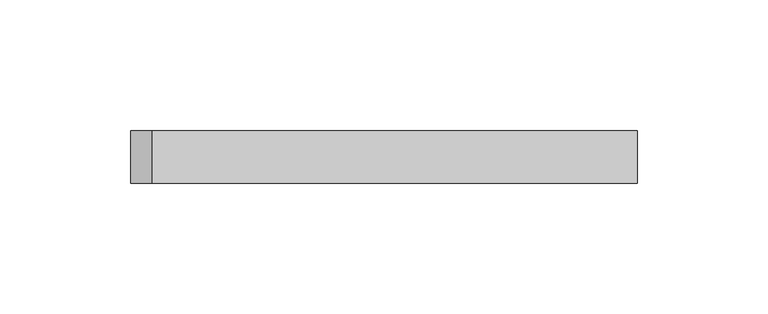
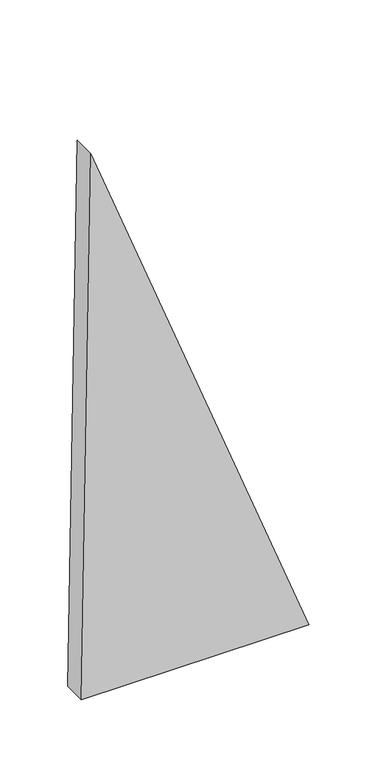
"""IFC4 building model written with IfcOpenShell, lengths in millimetres: plate geometry, 空系统嵌板 : 空."""

from ifc_helpers import new_model, si_unit, frame, origin, place, context, project, spatial, polyline, outline, extrude, source, transform, mapped, element, save


def plate_c055fcc8(model_context):
    return source(origin(), model_context, "Body", "SweptSolid", [
        extrude(outline(polyline([(0.4316413, -96.864761), (0.0, 96.864761), (489.3067732, -88.8484409), (0.4316413, -96.864761)])), frame((0.0, -10.0, 0.0), z_axis=(0.0, 1.0, 0.0), x_axis=(0.0, 0.0, 1.0)), (0.0, 0.0, 1.0), 20.0),
    ])


if __name__ == "__main__":
    model = new_model("IFC4")
    model_context = context("Model", 3, world=origin())
    ifc_project = project(units=[si_unit("LENGTHUNIT", "METRE", prefix="MILLI")], contexts=[model_context])
    site = spatial("IfcSite", under=ifc_project)
    building = spatial("IfcBuilding", under=site)
    placement = place(None, origin())
    plate_shape = plate_c055fcc8(model_context)
    element("IfcPlate", 1, ObjectType="空系统嵌板 : 空", at=placement, inside=building, context=model_context, shape_type="MappedRepresentation", body=[
        mapped(plate_shape, transform((0.0, 0.0, 0.0), x_axis=(1.0, 0.0, 0.0), y_axis=(0.0, 1.0, 0.0), z_axis=(0.0, 0.0, 1.0))),
    ])
    save(model, "model.ifc")
